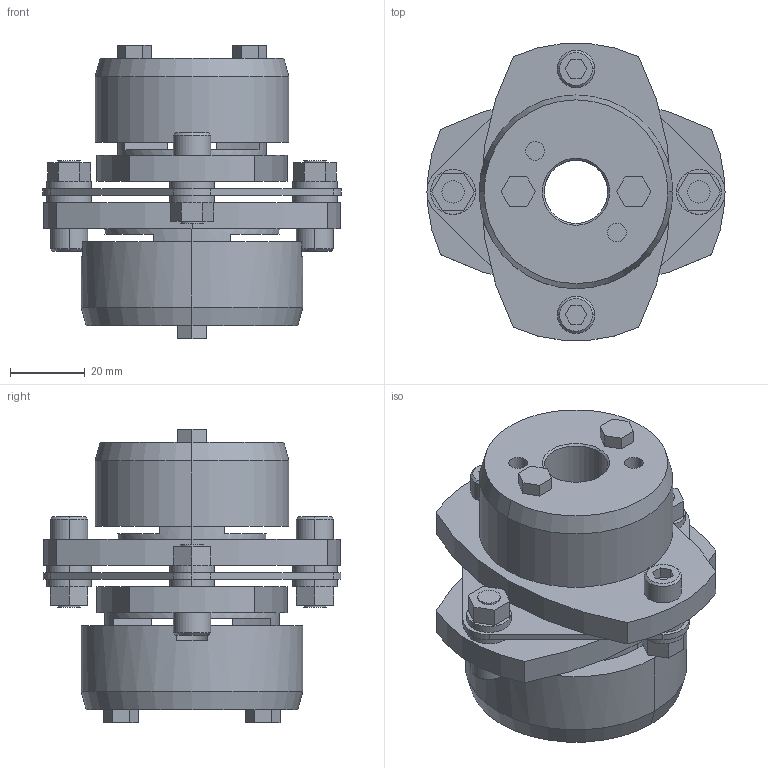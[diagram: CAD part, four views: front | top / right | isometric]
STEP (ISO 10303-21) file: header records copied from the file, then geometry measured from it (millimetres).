
FILE_DESCRIPTION((''),'2;1');
FILE_NAME('LCS-80T7-17×25.stp','2011-09-12T14:59:53',(''),(''),'AutoCAD STEP 2000i','AutoCAD 2000i',', , ');
FILE_SCHEMA(('CONFIG_CONTROL_DESIGN'));
Length unit declared in the file: millimetre
Products named in the file (8): LCS-80T7-17×24; 忣兜1; LC80T7-T024; LC80T7-T022; LC80T7-T019; LC80T7-T017-1; LC80T7-T017; LCS80-ITA
Assembly tree (7 placements, depth 2):
  LCS-80T7-17×24
    忣兜1
    LC80T7-T024
    LC80T7-T022
    LC80T7-T019
    LC80T7-T017-1
    LC80T7-T017
    LCS80-ITA
Bounding box: 80 x 79.95 x 78.75 mm (x, y, z)
Volume: 151272.1 mm3; surface area: 42655.8 mm2
Topology: 1 solids, 1 shells, 222 faces, 544 edges, 356 vertices
Faces by surface type: plane 120, cylinder 82, cone 20
Entity records: 6801 total; most frequent: DIRECTION 1208, CARTESIAN_POINT 1130, ORIENTED_EDGE 1088, EDGE_CURVE 544, AXIS2_PLACEMENT_3D 434, VERTEX_POINT 356, VECTOR 340, LINE 340
